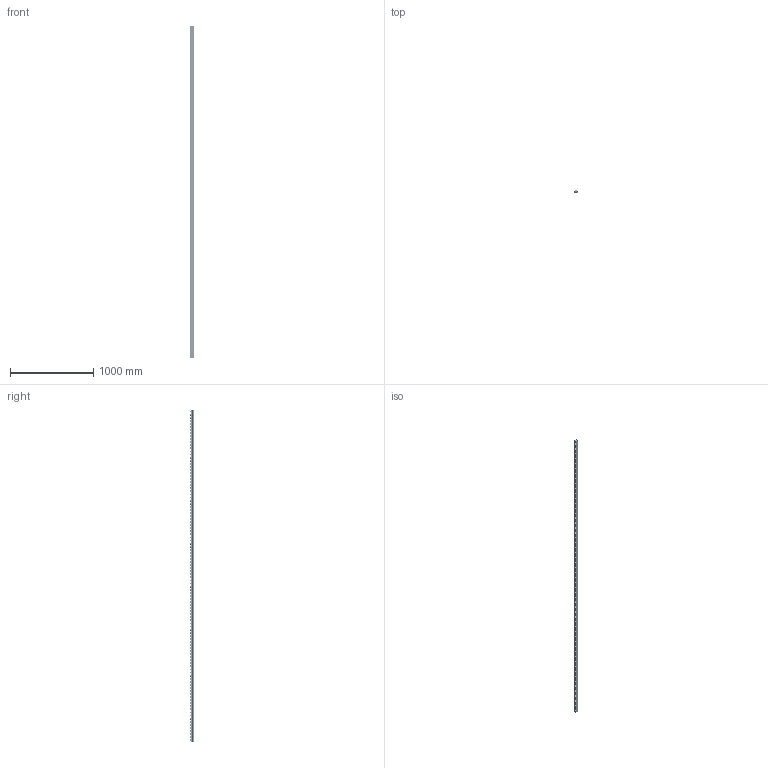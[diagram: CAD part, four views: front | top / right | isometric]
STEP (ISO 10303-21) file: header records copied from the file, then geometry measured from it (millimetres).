
FILE_DESCRIPTION (( 'STEP AP203' ), '1' );
FILE_NAME ('015.200.012.STEP', '2016-10-24T08:00:04', ( '' ), ( '' ), 'SwSTEP 2.0', 'SolidWorks 2016', '' );
FILE_SCHEMA (( 'CONFIG_CONTROL_DESIGN' ));
Length unit declared in the file: millimetre
Products named in the file (3): 015.200.006_1_100_A macchina_; 015.200.006_2; 015.200.012
Assembly tree (109 placements, depth 2):
  015.200.012
    015.200.006_1_100_A macchina_
    015.200.006_2  x108
Bounding box: 41 x 44.99 x 4000 mm (x, y, z)
Volume: 2044662 mm3; surface area: 1893548.1 mm2
Topology: 325 solids, 325 shells, 9256 faces, 25170 edges, 16348 vertices
Faces by surface type: plane 4572, cylinder 3388, bspline 1296
Entity records: 129299 total; most frequent: DIRECTION 22870, ORIENTED_EDGE 22092, CARTESIAN_POINT 21998, EDGE_CURVE 11046, AXIS2_PLACEMENT_3D 8472, VERTEX_POINT 7360, VECTOR 5926, LINE 5926
